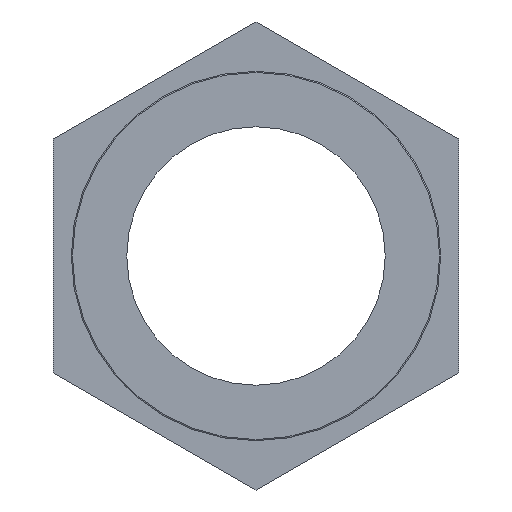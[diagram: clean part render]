
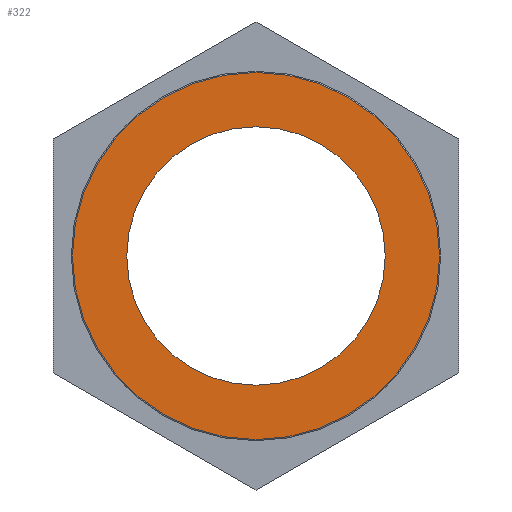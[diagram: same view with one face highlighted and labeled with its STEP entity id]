
A CAD part, left-side view. The second image highlights one B-rep face of the part: STEP entity #322.
In plain terms, the highlighted planar face has unit normal (-1, 0, 0).
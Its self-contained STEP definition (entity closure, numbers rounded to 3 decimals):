
#57=PLANE('',#352);
#77=FACE_BOUND('',#124,.T.);
#96=FACE_OUTER_BOUND('',#123,.T.);
#123=EDGE_LOOP('',(#251));
#124=EDGE_LOOP('',(#252));
#164=CIRCLE('',#349,20.835);
#166=CIRCLE('',#353,14.669);
#182=VERTEX_POINT('',#500);
#184=VERTEX_POINT('',#506);
#212=EDGE_CURVE('',#182,#182,#164,.T.);
#214=EDGE_CURVE('',#184,#184,#166,.T.);
#251=ORIENTED_EDGE('',*,*,#212,.F.);
#252=ORIENTED_EDGE('',*,*,#214,.F.);
#322=ADVANCED_FACE('',(#96,#77),#57,.T.);
#349=AXIS2_PLACEMENT_3D('',#501,#396,#397);
#352=AXIS2_PLACEMENT_3D('',#505,#402,#403);
#353=AXIS2_PLACEMENT_3D('',#507,#404,#405);
#396=DIRECTION('center_axis',(1.,0.,0.));
#397=DIRECTION('ref_axis',(0.,1.,0.));
#402=DIRECTION('center_axis',(-1.,0.,0.));
#403=DIRECTION('ref_axis',(0.,0.,1.));
#404=DIRECTION('center_axis',(-1.,0.,0.));
#405=DIRECTION('ref_axis',(0.,0.,1.));
#500=CARTESIAN_POINT('',(0.,-20.835,0.));
#501=CARTESIAN_POINT('Origin',(0.,0.,0.));
#505=CARTESIAN_POINT('Origin',(0.,-14.669,0.));
#506=CARTESIAN_POINT('',(0.,-14.669,0.));
#507=CARTESIAN_POINT('Origin',(0.,0.,0.));
